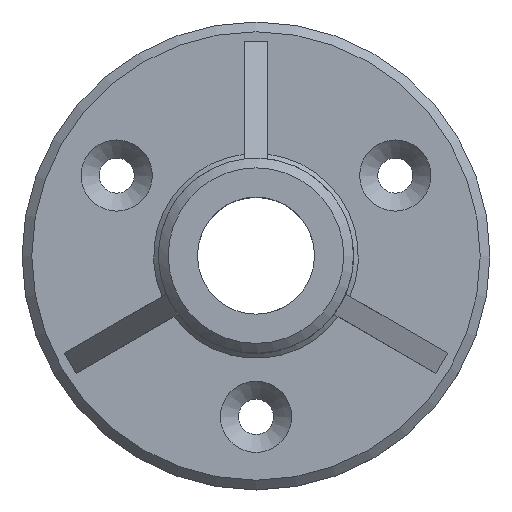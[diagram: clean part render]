
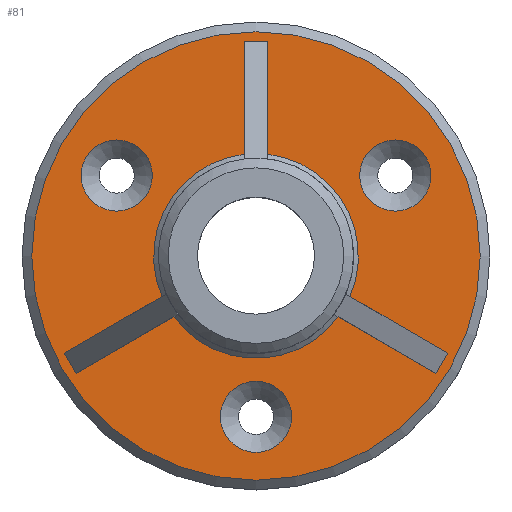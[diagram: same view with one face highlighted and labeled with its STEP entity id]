
A CAD part, top view. The second image highlights one B-rep face of the part: STEP entity #81.
In plain terms, the highlighted planar face has unit normal (0, 0, 1).
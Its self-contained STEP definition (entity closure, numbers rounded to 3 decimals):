
#67=PLANE('',#621);
#81=ADVANCED_FACE('',(#205,#206,#207,#208,#209),#67,.T.);
#133=LINE('',#887,#156);
#134=LINE('',#892,#157);
#135=LINE('',#894,#158);
#136=LINE('',#896,#159);
#137=LINE('',#900,#160);
#138=LINE('',#902,#161);
#139=LINE('',#904,#162);
#140=LINE('',#908,#163);
#141=LINE('',#910,#164);
#156=VECTOR('',#702,1.);
#157=VECTOR('',#705,1.);
#158=VECTOR('',#706,1.);
#159=VECTOR('',#707,1.);
#160=VECTOR('',#710,1.);
#161=VECTOR('',#711,1.);
#162=VECTOR('',#712,1.);
#163=VECTOR('',#715,1.);
#164=VECTOR('',#716,1.);
#177=CIRCLE('',#614,9.125);
#178=CIRCLE('',#615,9.125);
#179=CIRCLE('',#616,9.125);
#180=CIRCLE('',#617,26.25);
#181=CIRCLE('',#618,26.25);
#182=CIRCLE('',#619,26.25);
#183=CIRCLE('',#620,57.5);
#205=FACE_BOUND('',#249,.T.);
#206=FACE_BOUND('',#250,.T.);
#207=FACE_BOUND('',#251,.T.);
#208=FACE_BOUND('',#252,.T.);
#209=FACE_BOUND('',#253,.T.);
#249=EDGE_LOOP('',(#323));
#250=EDGE_LOOP('',(#324));
#251=EDGE_LOOP('',(#325));
#252=EDGE_LOOP('',(#326,#327,#328,#329,#330,#331,#332,#333,#334,#335,#336,
#337));
#253=EDGE_LOOP('',(#338));
#323=ORIENTED_EDGE('',*,*,#527,.T.);
#324=ORIENTED_EDGE('',*,*,#528,.T.);
#325=ORIENTED_EDGE('',*,*,#529,.T.);
#326=ORIENTED_EDGE('',*,*,#530,.F.);
#327=ORIENTED_EDGE('',*,*,#531,.T.);
#328=ORIENTED_EDGE('',*,*,#532,.T.);
#329=ORIENTED_EDGE('',*,*,#533,.F.);
#330=ORIENTED_EDGE('',*,*,#534,.F.);
#331=ORIENTED_EDGE('',*,*,#535,.T.);
#332=ORIENTED_EDGE('',*,*,#536,.T.);
#333=ORIENTED_EDGE('',*,*,#537,.F.);
#334=ORIENTED_EDGE('',*,*,#538,.F.);
#335=ORIENTED_EDGE('',*,*,#539,.T.);
#336=ORIENTED_EDGE('',*,*,#540,.T.);
#337=ORIENTED_EDGE('',*,*,#541,.T.);
#338=ORIENTED_EDGE('',*,*,#542,.T.);
#471=VERTEX_POINT('',#882);
#472=VERTEX_POINT('',#884);
#473=VERTEX_POINT('',#886);
#474=VERTEX_POINT('',#888);
#475=VERTEX_POINT('',#889);
#476=VERTEX_POINT('',#891);
#477=VERTEX_POINT('',#893);
#478=VERTEX_POINT('',#895);
#479=VERTEX_POINT('',#897);
#480=VERTEX_POINT('',#899);
#481=VERTEX_POINT('',#901);
#482=VERTEX_POINT('',#903);
#483=VERTEX_POINT('',#905);
#484=VERTEX_POINT('',#907);
#485=VERTEX_POINT('',#909);
#486=VERTEX_POINT('',#912);
#527=EDGE_CURVE('',#471,#471,#177,.T.);
#528=EDGE_CURVE('',#472,#472,#178,.T.);
#529=EDGE_CURVE('',#473,#473,#179,.T.);
#530=EDGE_CURVE('',#474,#475,#133,.T.);
#531=EDGE_CURVE('',#474,#476,#180,.T.);
#532=EDGE_CURVE('',#476,#477,#134,.T.);
#533=EDGE_CURVE('',#478,#477,#135,.T.);
#534=EDGE_CURVE('',#479,#478,#136,.T.);
#535=EDGE_CURVE('',#479,#480,#181,.T.);
#536=EDGE_CURVE('',#480,#481,#137,.T.);
#537=EDGE_CURVE('',#482,#481,#138,.T.);
#538=EDGE_CURVE('',#483,#482,#139,.T.);
#539=EDGE_CURVE('',#483,#484,#182,.T.);
#540=EDGE_CURVE('',#484,#485,#140,.T.);
#541=EDGE_CURVE('',#485,#475,#141,.T.);
#542=EDGE_CURVE('',#486,#486,#183,.T.);
#614=AXIS2_PLACEMENT_3D('',#881,#696,#697);
#615=AXIS2_PLACEMENT_3D('',#883,#698,#699);
#616=AXIS2_PLACEMENT_3D('',#885,#700,#701);
#617=AXIS2_PLACEMENT_3D('',#890,#703,#704);
#618=AXIS2_PLACEMENT_3D('',#898,#708,#709);
#619=AXIS2_PLACEMENT_3D('',#906,#713,#714);
#620=AXIS2_PLACEMENT_3D('',#911,#717,#718);
#621=AXIS2_PLACEMENT_3D('',#913,#719,#720);
#696=DIRECTION('',(0.,0.,-1.));
#697=DIRECTION('',(-1.,0.,0.));
#698=DIRECTION('',(0.,0.,-1.));
#699=DIRECTION('',(-1.,0.,0.));
#700=DIRECTION('',(0.,0.,-1.));
#701=DIRECTION('',(-1.,0.,0.));
#702=DIRECTION('',(0.,1.,0.));
#703=DIRECTION('',(0.,0.,-1.));
#704=DIRECTION('',(1.,0.,0.));
#705=DIRECTION('',(0.866,-0.5,0.));
#706=DIRECTION('',(0.5,0.866,0.));
#707=DIRECTION('',(0.866,-0.5,0.));
#708=DIRECTION('',(0.,0.,-1.));
#709=DIRECTION('',(1.,0.,0.));
#710=DIRECTION('',(-0.866,-0.5,0.));
#711=DIRECTION('',(0.5,-0.866,0.));
#712=DIRECTION('',(-0.866,-0.5,0.));
#713=DIRECTION('',(0.,0.,-1.));
#714=DIRECTION('',(1.,0.,0.));
#715=DIRECTION('',(0.,1.,0.));
#716=DIRECTION('',(1.,0.,0.));
#717=DIRECTION('',(0.,0.,1.));
#718=DIRECTION('',(1.,0.,0.));
#719=DIRECTION('',(0.,0.,1.));
#720=DIRECTION('',(1.,0.,0.));
#881=CARTESIAN_POINT('',(0.,-41.25,10.));
#882=CARTESIAN_POINT('',(-9.125,-41.25,10.));
#883=CARTESIAN_POINT('',(35.724,20.625,10.));
#884=CARTESIAN_POINT('',(26.599,20.625,10.));
#885=CARTESIAN_POINT('',(-35.724,20.625,10.));
#886=CARTESIAN_POINT('',(-44.849,20.625,10.));
#887=CARTESIAN_POINT('',(3.,20.,10.));
#888=CARTESIAN_POINT('',(3.,26.078,10.));
#889=CARTESIAN_POINT('',(3.,55.,10.));
#890=CARTESIAN_POINT('',(0.,0.,10.));
#891=CARTESIAN_POINT('',(24.084,-10.441,10.));
#892=CARTESIAN_POINT('',(18.821,-7.402,10.));
#893=CARTESIAN_POINT('',(49.131,-24.902,10.));
#894=CARTESIAN_POINT('',(46.131,-30.098,10.));
#895=CARTESIAN_POINT('',(46.131,-30.098,10.));
#896=CARTESIAN_POINT('',(15.821,-12.598,10.));
#897=CARTESIAN_POINT('',(21.084,-15.637,10.));
#898=CARTESIAN_POINT('',(0.,0.,10.));
#899=CARTESIAN_POINT('',(-21.084,-15.637,10.));
#900=CARTESIAN_POINT('',(-15.821,-12.598,10.));
#901=CARTESIAN_POINT('',(-46.131,-30.098,10.));
#902=CARTESIAN_POINT('',(-49.131,-24.902,10.));
#903=CARTESIAN_POINT('',(-49.131,-24.902,10.));
#904=CARTESIAN_POINT('',(-18.821,-7.402,10.));
#905=CARTESIAN_POINT('',(-24.084,-10.441,10.));
#906=CARTESIAN_POINT('',(0.,0.,10.));
#907=CARTESIAN_POINT('',(-3.,26.078,10.));
#908=CARTESIAN_POINT('',(-3.,20.,10.));
#909=CARTESIAN_POINT('',(-3.,55.,10.));
#910=CARTESIAN_POINT('',(3.,55.,10.));
#911=CARTESIAN_POINT('',(0.,0.,10.));
#912=CARTESIAN_POINT('',(57.5,0.,10.));
#913=CARTESIAN_POINT('',(60.,0.,10.));
